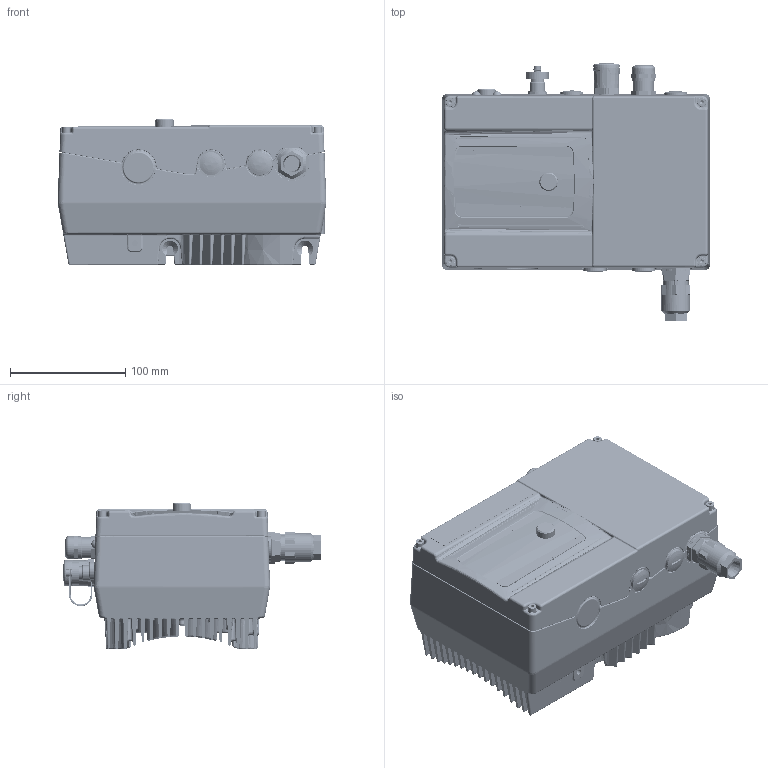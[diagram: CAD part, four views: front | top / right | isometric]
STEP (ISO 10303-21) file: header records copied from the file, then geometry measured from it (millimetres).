
FILE_DESCRIPTION(('CATIA V5 STEP 214','CAx-IF Rec.Pracs.--- Model Styling and Organization---1.4--- 2014-01-23'),'2;1');
FILE_NAME('C:\Temp\ddxv7\619212\MKT INVEOR MPP A-1-0000A.stp','2024-02-20T11:16:26+00:00',('Leopold Kostal'),('Kostal GmbH'),'CATIA Version 5-6 Release 2016 SP6 HF31','CATIA V5 STEP AP214','none');
FILE_SCHEMA(('AUTOMOTIVE_DESIGN { 1 0 10303 214 1 1 1 1 }'));
Products named in the file (1): MKT INVEOR MPP A-1-0000A
Bounding box: 232.93 x 224.44 x 126.87 mm (x, y, z)
Surface area: 1373886.5 mm2
Topology: 8 solids, 86 shells, 21127 faces, 56044 edges, 33720 vertices
Faces by surface type: plane 7546, cylinder 4839, bspline 4425, torus 1567, extrusion 1343, cone 1147, sphere 246, revolution 14
Entity records: 1014725 total; most frequent: CARTESIAN_POINT 572888, ORIENTED_EDGE 110184, DIRECTION 58721, EDGE_CURVE 55092, VERTEX_POINT 33720, AXIS2_PLACEMENT_3D 24374, VECTOR 22105, EDGE_LOOP 21948
